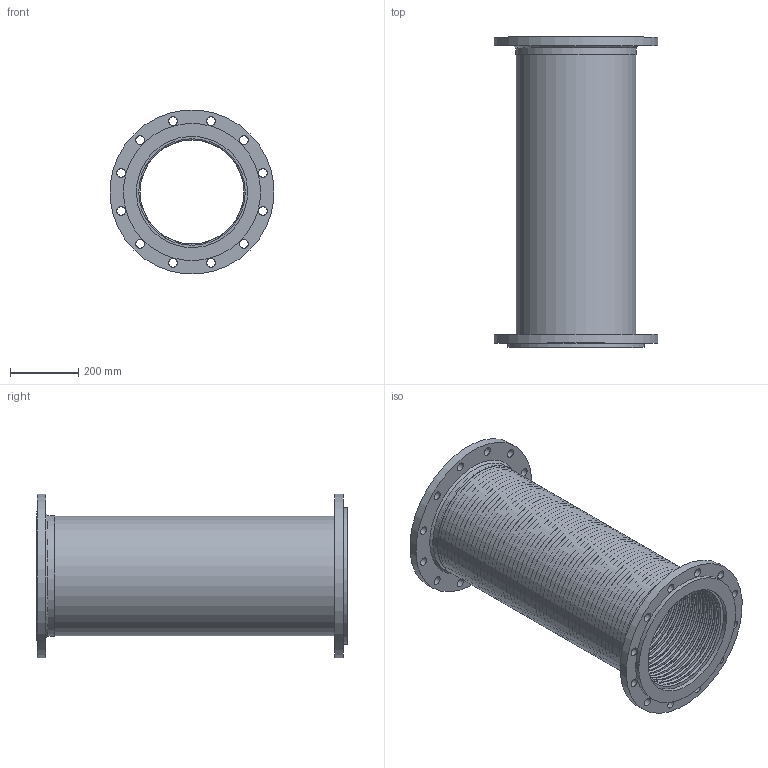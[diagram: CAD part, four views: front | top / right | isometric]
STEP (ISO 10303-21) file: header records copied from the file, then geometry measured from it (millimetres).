
FILE_DESCRIPTION((''),'2;1');
FILE_NAME('C:\REVIT SHARED FILES\STP\FFL12x36ASA150.stp','2013-06-14T19:26:22',('rramoutar'),(''),'Autodesk Inventor 2012','Autodesk Inventor 2012','');
FILE_SCHEMA(('AUTOMOTIVE_DESIGN { 1 0 10303 214 1 1 1 1 }'));
Length unit declared in the file: inch
Products named in the file (8): FFL 12x36 Per A-30314-3; FFL 12x36 Per A-30314-3_Welds; A-30302-2 FIXED FLANGE 12 inch 150 #; A-30303-1 FLOATING FLANGE 12 inch 150 #; A-30304-2 FFL WELDED WASHER 12 inch 150 #; A-29781-7 12.0 inch braid collar; FFL 12x36 Stainless Hose; FFL 12x36 Stainless Braid
Assembly tree (8 placements, depth 2):
  FFL 12x36 Per A-30314-3
    FFL 12x36 Per A-30314-3_Welds
    A-30302-2 FIXED FLANGE 12 inch 150 #
    A-30303-1 FLOATING FLANGE 12 inch 150 #
    A-30304-2 FFL WELDED WASHER 12 inch 150 #
    A-29781-7 12.0 inch braid collar  x2
    FFL 12x36 Stainless Hose
    FFL 12x36 Stainless Braid
Bounding box: 480.76 x 914.4 x 480.76 mm (x, y, z)
Volume: 7837976.4 mm3; surface area: 9027273.4 mm2
Topology: 9 solids, 9 shells, 521 faces, 825 edges, 551 vertices
Faces by surface type: plane 247, torus 232, cylinder 39, bspline 2, cone 1
Full cylindrical faces by diameter (mm): 25.4 x24, 327.025 x2, 350.52 x1, 351.536 x2, 352.552 x1, 353.917 x4, 361.95 x1, 381 x1, 403.225 x1, 482.6 x2
Entity records: 11448 total; most frequent: DIRECTION 2136, CARTESIAN_POINT 2075, ORIENTED_EDGE 1094, EDGE_LOOP 1080, AXIS2_PLACEMENT_3D 1068, FACE_BOUND 563, EDGE_CURVE 547, VERTEX_POINT 545
